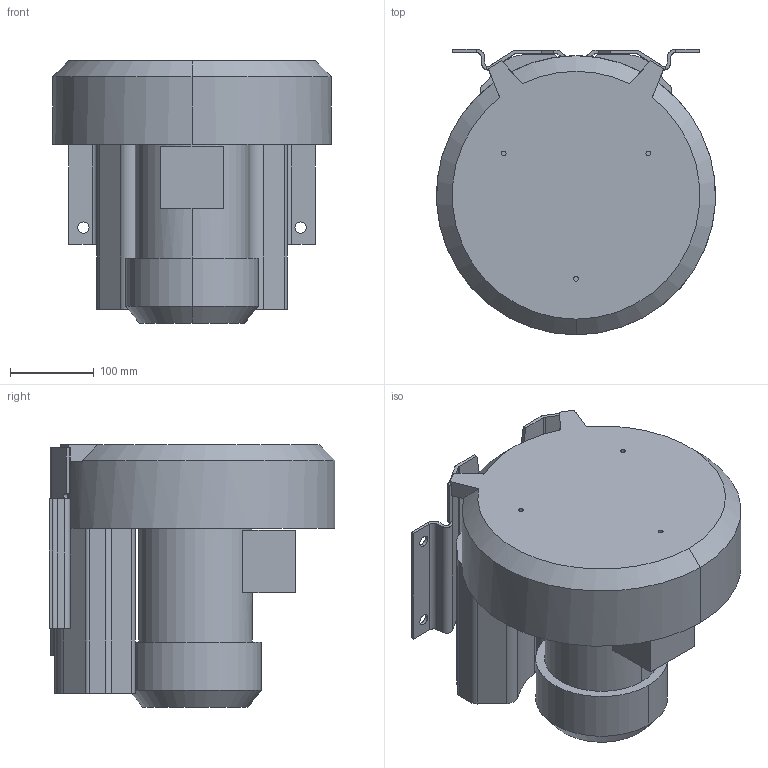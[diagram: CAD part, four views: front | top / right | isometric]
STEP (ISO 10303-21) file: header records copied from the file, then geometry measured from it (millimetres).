
FILE_DESCRIPTION (( 'STEP AP214' ), '1' );
FILE_NAME ('HSC0210-1MA111-1.STP', '2023-09-04T10:20:19', ( '' ), ( '' ), 'SwSTEP 2.0', 'SolidWorks 2022', '' );
FILE_SCHEMA (( 'AUTOMOTIVE_DESIGN' ));
Length unit declared in the file: millimetre
Products named in the file (1): HSC0210-1MA111-1
Bounding box: 333.8 x 342 x 314 mm (x, y, z)
Volume: 15601374.1 mm3; surface area: 665265.6 mm2
Topology: 1 solids, 1 shells, 187 faces, 503 edges, 329 vertices
Faces by surface type: cylinder 90, plane 90, cone 5, bspline 2
Entity records: 6359 total; most frequent: CARTESIAN_POINT 1499, DIRECTION 1030, ORIENTED_EDGE 1006, EDGE_CURVE 503, AXIS2_PLACEMENT_3D 373, VERTEX_POINT 329, VECTOR 284, LINE 284
